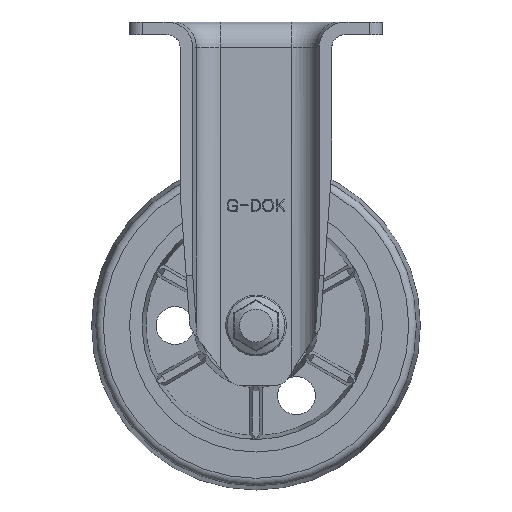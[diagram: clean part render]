
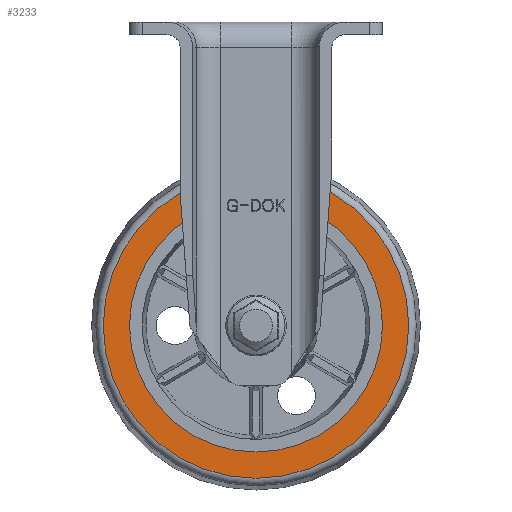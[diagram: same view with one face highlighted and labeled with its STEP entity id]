
A CAD part, front view. The second image highlights one B-rep face of the part: STEP entity #3233.
In plain terms, the highlighted planar face has unit normal (0, -1, 0).
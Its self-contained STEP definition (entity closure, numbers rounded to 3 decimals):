
#2216=CARTESIAN_POINT('',(11.595,-20.,-219.779));
#2217=VERTEX_POINT('',#2216);
#2218=CARTESIAN_POINT('',(-38.405,-20.,-219.779));
#2219=DIRECTION('',(0.0,1.0,0.0));
#2220=DIRECTION('',(-1.0,0.0,0.0));
#2221=AXIS2_PLACEMENT_3D('',#2218,#2219,#2220);
#2222=CIRCLE('',#2221,50.0);
#2223=EDGE_CURVE('',#2217,#2217,#2222,.T.);
#3214=CARTESIAN_POINT('',(-69.905,-20.,-219.779));
#3215=DIRECTION('',(0.0,-1.0,0.0));
#3216=DIRECTION('',(0.0,0.0,-1.0));
#3217=AXIS2_PLACEMENT_3D('',#3214,#3215,#3216);
#3218=PLANE('',#3217);
#3219=CARTESIAN_POINT('',(-98.778,-20.,-219.779));
#3220=VERTEX_POINT('',#3219);
#3221=CARTESIAN_POINT('',(-38.405,-20.,-219.779));
#3222=DIRECTION('',(0.0,1.0,0.0));
#3223=DIRECTION('',(1.0,0.0,0.0));
#3224=AXIS2_PLACEMENT_3D('',#3221,#3222,#3223);
#3225=CIRCLE('',#3224,60.373);
#3226=EDGE_CURVE('',#3220,#3220,#3225,.T.);
#3227=ORIENTED_EDGE('',*,*,#3226,.F.);
#3228=EDGE_LOOP('',(#3227));
#3229=FACE_OUTER_BOUND('',#3228,.T.);
#3230=ORIENTED_EDGE('',*,*,#2223,.T.);
#3231=EDGE_LOOP('',(#3230));
#3232=FACE_BOUND('',#3231,.T.);
#3233=ADVANCED_FACE('',(#3229,#3232),#3218,.T.);
